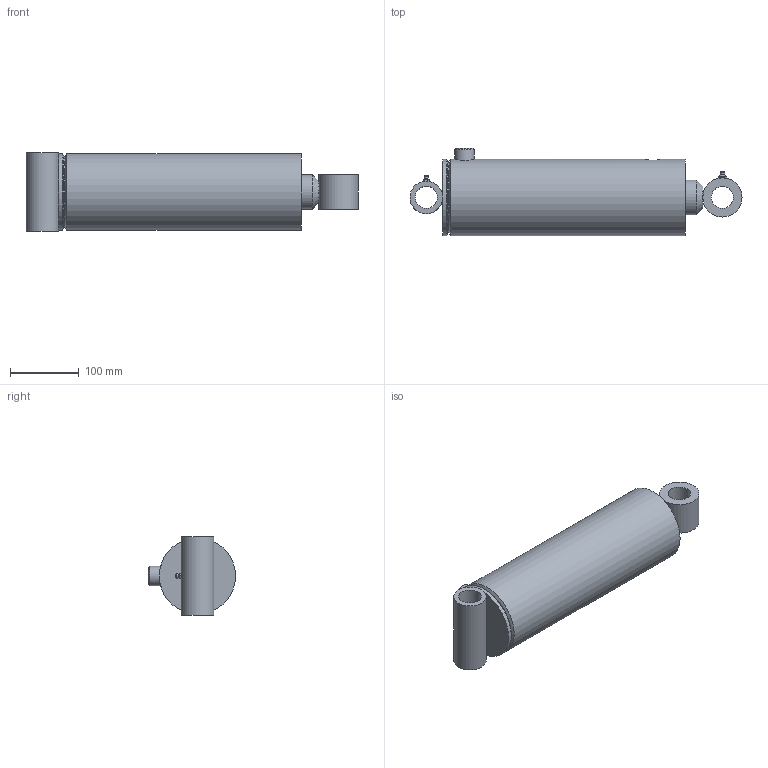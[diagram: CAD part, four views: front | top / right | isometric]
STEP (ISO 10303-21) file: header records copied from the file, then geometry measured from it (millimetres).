
FILE_DESCRIPTION((''),'2;1');
FILE_NAME('C:\Vault\Workspace\Vest\PMC-5608.stp','2010-07-26T11:51:00',('kneifld'),(''),'Autodesk Inventor 2010','Autodesk Inventor 2010','');
FILE_SCHEMA(('AUTOMOTIVE_DESIGN { 1 0 10303 214 1 1 1 1 }'));
Length unit declared in the file: inch
Products named in the file (21): PMC-5608; 061900033V; 051900055V; 161900081V; 200014404V; 210600086V; 021100294V; 011100864V; 210600347V; 071900019; 081900451V; 220000212V; 240000026V; 240061342V; 240000342V; 240020009V; 230001400V; 200018003V; 270010002V; 270010020V; 250001329V
Assembly tree (21 placements, depth 3):
  PMC-5608
    061900033V
      051900055V
      161900081V
      200014404V
      210600086V
    021100294V
      011100864V
      210600347V
    071900019
    081900451V
    220000212V
    240000026V
    240061342V
    240000342V
    240020009V
    230001400V
    200018003V  x2
    270010002V
    270010020V
    250001329V
Bounding box: 484.19 x 127 x 114.3 mm (x, y, z)
Volume: 2174841.1 mm3; surface area: 491933.9 mm2
Topology: 19 solids, 19 shells, 236 faces, 476 edges, 286 vertices
Faces by surface type: plane 99, cylinder 55, cone 36, torus 23, bspline 21, sphere 2
Full cylindrical faces by diameter (mm): 1.524 x2, 3.175 x2, 6.074 x1, 8.839 x1, 9.08 x1, 12.7 x1, 23.813 x1, 28.575 x1, 31.699 x1, 31.826 x1, 32.258 x1, 32.385 x1, 34.315 x1, 47.625 x1, 50.8 x2, 50.876 x2, 51.752 x1, 54.61 x1, 57.15 x1, 58.725 x2, 59.373 x1, 60.325 x1, 60.452 x1, 63.5 x1, 80.95 x1, 91.592 x1, 92.151 x1, 92.71 x1, 92.964 x1, 95.25 x1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
Entity records: 6672 total; most frequent: CARTESIAN_POINT 2064, DIRECTION 911, ORIENTED_EDGE 604, AXIS2_PLACEMENT_3D 423, EDGE_LOOP 386, EDGE_CURVE 302, VERTEX_POINT 248, FACE_OUTER_BOUND 219
